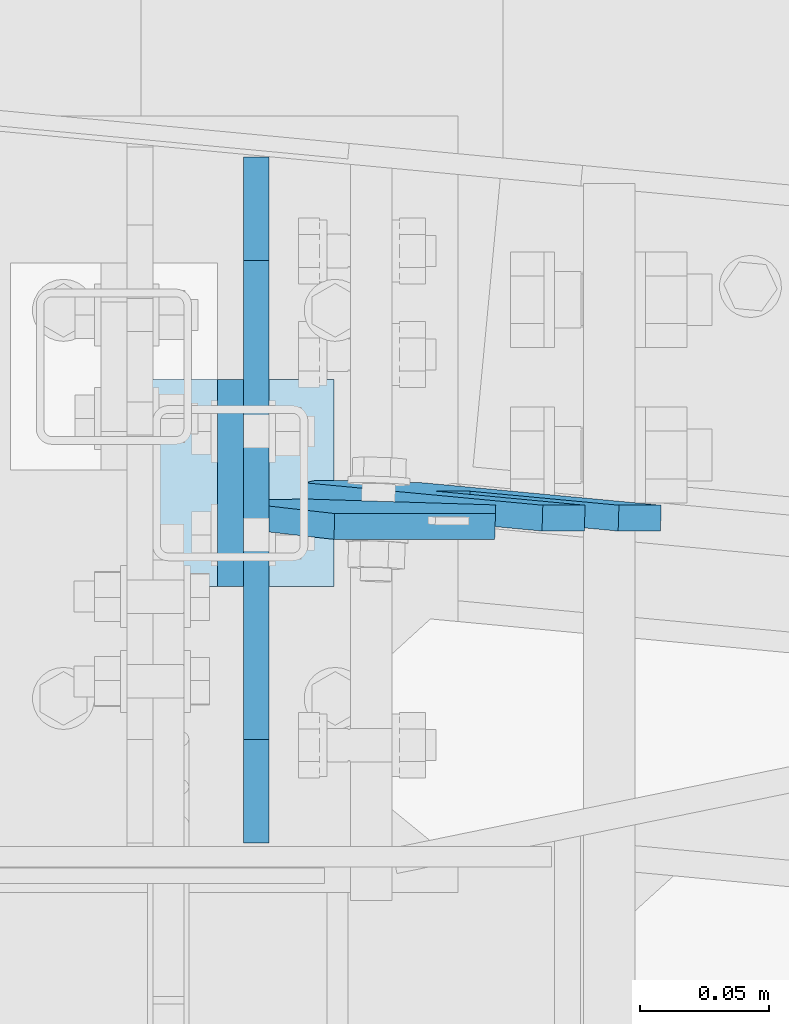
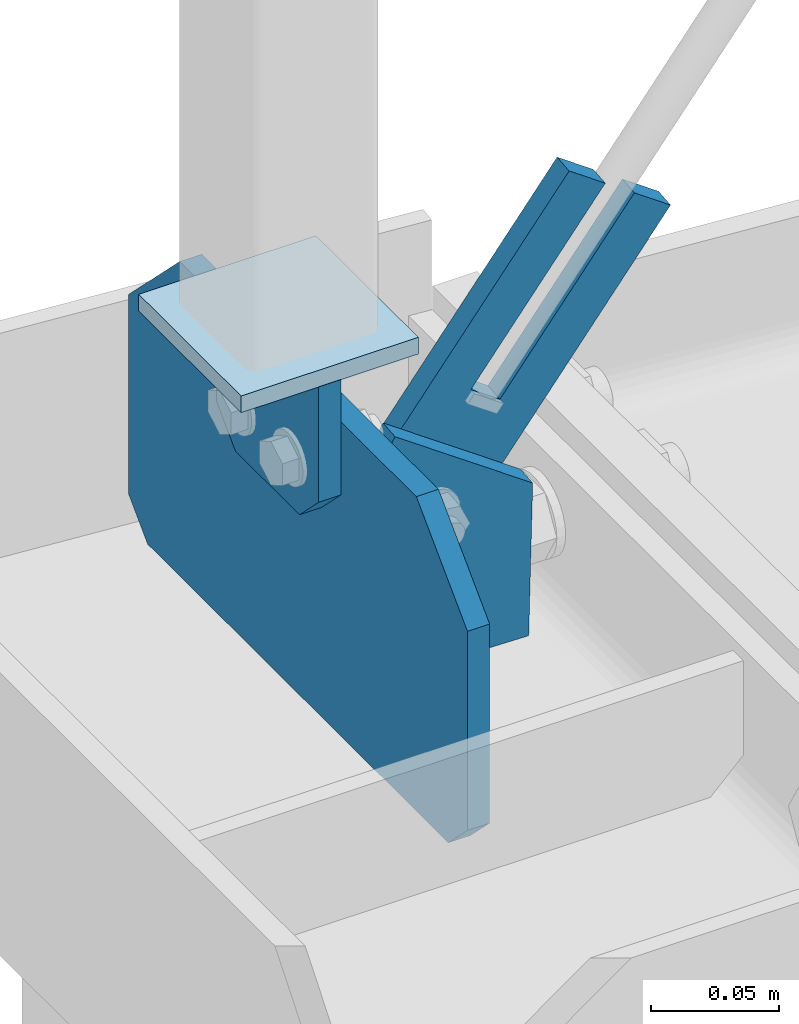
# One storey, part 142 of 271: 5 plates, 3 elements without a shape of their own.
"""IFC2X3 building model written with IfcOpenShell, lengths in millimetres."""

from ifc_helpers import new_model, si_unit, frame, origin_with_axes, place, context, subcontext, project, spatial, polyline, outline, extrude, boolean, material, type_object, element, aggregate, save


model = new_model("IFC2X3")

# Units and contexts
model_context = context("Model", 3, precision=1e-05, world=origin_with_axes())
body_context = subcontext(model_context, "Body", "Model", "MODEL_VIEW")
ifc_project = project(units=[si_unit("LENGTHUNIT", "METRE", prefix="MILLI"), si_unit("AREAUNIT", "SQUARE_METRE"), si_unit("VOLUMEUNIT", "CUBIC_METRE"), si_unit("MASSUNIT", "GRAM", prefix="KILO"), si_unit("TIMEUNIT", "SECOND"), si_unit("PLANEANGLEUNIT", "RADIAN"), si_unit("SOLIDANGLEUNIT", "STERADIAN"), si_unit("THERMODYNAMICTEMPERATUREUNIT", "DEGREE_CELSIUS"), si_unit("LUMINOUSINTENSITYUNIT", "LUMEN")], contexts=[model_context])

# Site, building, storey
site_placement = place(None, origin_with_axes())
site = spatial("IfcSite", under=ifc_project, at=site_placement, Name="Undefined", CompositionType="ELEMENT")
building_placement = place(site_placement, origin_with_axes())
building = spatial("IfcBuilding", under=site, at=building_placement, Name="Undefined", CompositionType="ELEMENT")
storey_placement = place(building_placement, origin_with_axes())
storey = spatial("IfcBuildingStorey", under=building, at=storey_placement, Name="Undefined", CompositionType="ELEMENT", Elevation=0.0)

# Assembly, plates
assembly_1_placement = place(storey_placement, origin_with_axes())
assembly_1 = element("IfcElementAssembly", 1, at=assembly_1_placement, inside=storey, AssemblyPlace="NOTDEFINED", PredefinedType="RIGID_FRAME")
ifc_material = material(Name="STEEL/S355JR")
plate_type_1 = type_object("IfcPlateType", Name="BL10*70", PredefinedType="NOTDEFINED")
plate_1_placement = place(assembly_1_placement, frame((122.999999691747, 4332.19355050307, 1482.64999985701), z_axis=(-1.0, 0.0, 1.38777878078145e-17), x_axis=(0.0, -0.707106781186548, -0.707106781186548)))
plate_1 = element("IfcPlate", 2, at=plate_1_placement, type_object=plate_type_1, material=ifc_material, Name="BLACHA", ObjectType="BL10*70", context=body_context, shape_type="SweptSolid", body=[
    extrude(outline(polyline([(0.0, 0.0), (21.2132034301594, 1.09139364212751e-11), (56.5685424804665, 35.3553390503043), (56.568542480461, 56.5685424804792), (17.6776695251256, 95.4594192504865), (-38.890872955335, 38.8908729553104), (0.0, 0.0)])), frame((0.0, 0.0, -5.0), z_axis=(0.0, 0.0, 1.0), x_axis=(1.0, 0.0, 0.0)), (0.0, 0.0, 1.0), 10.0),
])
plate_type_2 = type_object("IfcPlateType", Name="BL8*80", PredefinedType="NOTDEFINED")
plate_2_placement = place(assembly_1_placement, frame((162.999999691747, 4332.19355050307, 1541.64999985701), z_axis=(0.0, 0.0, -1.0), x_axis=(0.0, -1.0, 0.0)))
plate_2 = element("IfcPlate", 3, at=plate_2_placement, type_object=plate_type_2, material=ifc_material, Name="BLACHA", ObjectType="BL8*80", context=body_context, shape_type="SweptSolid", body=[
    extrude(outline(polyline([(0.0, 0.0), (80.0, 0.0), (80.0, 80.0), (0.0, 80.0), (0.0, 0.0)])), frame((0.0, 0.0, -4.0), z_axis=(0.0, 0.0, 1.0), x_axis=(1.0, 0.0, 0.0)), (0.0, 0.0, 1.0), 8.0),
])
aggregate(assembly_1, [plate_2, plate_1])

# Assembly, plate
assembly_2_placement = place(storey_placement, origin_with_axes())
assembly_2 = element("IfcElementAssembly", 4, at=assembly_2_placement, inside=storey, AssemblyPlace="NOTDEFINED", PredefinedType="RIGID_FRAME")
plate_type_3 = type_object("IfcPlateType", Name="BL10*56", PredefinedType="NOTDEFINED")
plate_3_placement = place(assembly_2_placement, frame((197.305285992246, 4287.34987444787, 1421.15885340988), z_axis=(0.0312255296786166, 0.998530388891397, 0.0442947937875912), x_axis=(-0.984755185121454, 0.0383214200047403, -0.169672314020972)))
plate_3 = element("IfcPlate", 5, at=plate_3_placement, type_object=plate_type_3, material=ifc_material, Name="BLACHA", ObjectType="BL10*56", context=body_context, shape_type="SweptSolid", body=[
    extrude(outline(polyline([(0.0, 0.0), (21.2132034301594, 1.09139364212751e-11), (39.5979804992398, 18.3847751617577), (39.5979804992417, 39.5979804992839), (-73.5391082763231, 152.735061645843), (-87.6812438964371, 138.592926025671), (-16.9705638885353, 67.882247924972), (-28.2842712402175, 56.5685424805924), (-98.9949493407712, 127.279220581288), (-113.137084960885, 113.137084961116), (0.0, 0.0)])), frame((0.0, 0.0, -5.0), z_axis=(0.0, 0.0, 1.0), x_axis=(1.0, 0.0, 0.0)), (0.0, 0.0, 1.0), 10.0),
])
aggregate(assembly_2, [plate_3])

# Assembly, plates
assembly_3_placement = place(storey_placement, origin_with_axes())
assembly_3 = element("IfcElementAssembly", 6, at=assembly_3_placement, inside=storey, AssemblyPlace="NOTDEFINED", PredefinedType="RIGID_FRAME")
plate_type_4 = type_object("IfcPlateType", Name="BL10*119", PredefinedType="NOTDEFINED")
plate_4_placement = place(assembly_3_placement, frame((225.406606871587, 4278.78924167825, 1368.59224925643), z_axis=(0.0312255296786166, 0.998530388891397, 0.0442947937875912), x_axis=(-0.999511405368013, 0.0312562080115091, 0.0)))
plate_4 = element("IfcPlate", 7, at=plate_4_placement, type_object=plate_type_4, material=ifc_material, Name="BLACHA", ObjectType="BL10*119", context=body_context, shape_type="CSG", body=[
    boolean("DIFFERENCE", boolean("DIFFERENCE", extrude(outline(polyline([(0.0, 0.0), (126.438262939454, 3.5313973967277e-12), (62.0865364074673, 118.832199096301), (-3.89910326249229e-12, 74.99999999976), (0.0, 0.0)])), frame((0.0, 0.0, -5.0), z_axis=(0.0, 0.0, 1.0), x_axis=(1.0, 0.0, 0.0)), (0.0, 0.0, 1.0), 10.0), extrude(outline(polyline([(0.0, 0.0), (15.0, -1.59872115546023e-14), (0.0207920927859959, 15.0207634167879), (0.0207920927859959, 15.0207634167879), (0.0, 0.0)])), frame((87.6059856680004, -0.322875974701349, -4.99999998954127), z_axis=(0.0, 0.0, 1.0), x_axis=(-0.00138516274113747, 0.99999904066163, 4.69774913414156e-10)), (0.0, 0.0, 1.0), 10.0)), extrude(outline(polyline([(0.0, 0.0), (200.0, 0.0), (200.0, 150.0), (1.4210854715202e-14, 150.0), (0.0, 0.0)])), frame((90.9084894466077, -5.84107744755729, 110.466594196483), z_axis=(0.999511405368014, 0.00138448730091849, -0.0312255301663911), x_axis=(-0.0312562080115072, 0.0442731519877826, -0.99853038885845)), (0.0, 0.0, 1.0), 100.0)),
])
plate_type_5 = type_object("IfcPlateType", Name="BL10*150", PredefinedType="NOTDEFINED")
plate_5_placement = place(assembly_3_placement, frame((132.999999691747, 4418.19355050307, 1367.64999985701), z_axis=(-1.0, 0.0, 1.38777878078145e-17), x_axis=(0.0, -1.0, 0.0)))
plate_5 = element("IfcPlate", 8, at=plate_5_placement, type_object=plate_type_5, material=ifc_material, Name="BLACHA", ObjectType="BL10*150", context=body_context, shape_type="SweptSolid", body=[
    extrude(outline(polyline([(0.0, 15.0), (15.0, -1.59872115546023e-14), (250.0, -1.4210854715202e-14), (265.0, 15.0), (265.0, 110.0), (225.0, 150.0), (40.0, 150.0), (0.0, 110.0), (0.0, 15.0)])), frame((0.0, 0.0, -5.0), z_axis=(0.0, 0.0, 1.0), x_axis=(1.0, 0.0, 0.0)), (0.0, 0.0, 1.0), 10.0),
])
aggregate(assembly_3, [plate_4, plate_5])

save(model, "model.ifc")
